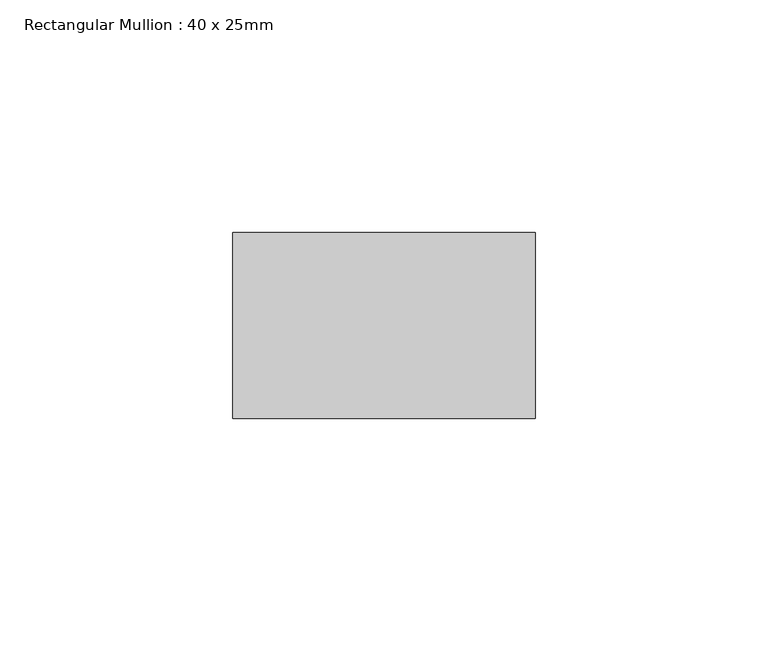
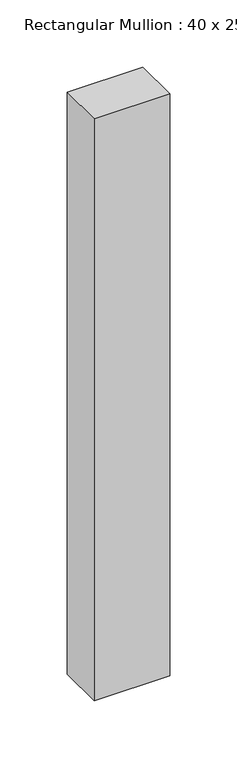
"""IFC4 building model written with IfcOpenShell, lengths in millimetres: member geometry, Rectangular Mullion : 40 x 25mm."""

from ifc_helpers import new_model, si_unit, frame, origin, place, context, project, spatial, polyline, outline, extrude, source, transform, mapped, element, save


def rectangular_mullion_40_x_25mm_d2886161(model_context):
    return source(origin(), model_context, "Body", "SweptSolid", [
        extrude(outline(polyline([(0.0, -20.0), (0.0, -60.0), (-65.0, -60.0), (-65.0, -20.0), (0.0, -20.0)])), frame((0.0, 0.0, -528.6585561), z_axis=(0.0, 0.0, 1.0), x_axis=(1.0, 0.0, 0.0)), (0.0, 0.0, 1.0), 528.6585561),
    ])


if __name__ == "__main__":
    model = new_model("IFC4")
    model_context = context("Model", 3, world=origin())
    ifc_project = project(units=[si_unit("LENGTHUNIT", "METRE", prefix="MILLI")], contexts=[model_context])
    site = spatial("IfcSite", under=ifc_project)
    building = spatial("IfcBuilding", under=site)
    placement = place(None, origin())
    rectangular_mullion_40_x_25mm_shape = rectangular_mullion_40_x_25mm_d2886161(model_context)
    element("IfcMember", 1, ObjectType="Rectangular Mullion : 40 x 25mm", at=placement, inside=building, context=model_context, shape_type="MappedRepresentation", body=[
        mapped(rectangular_mullion_40_x_25mm_shape, transform((0.0, 0.0, 0.0), x_axis=(1.0, 0.0, 0.0), y_axis=(0.0, 1.0, 0.0), z_axis=(0.0, 0.0, 1.0))),
    ])
    save(model, "model.ifc")
